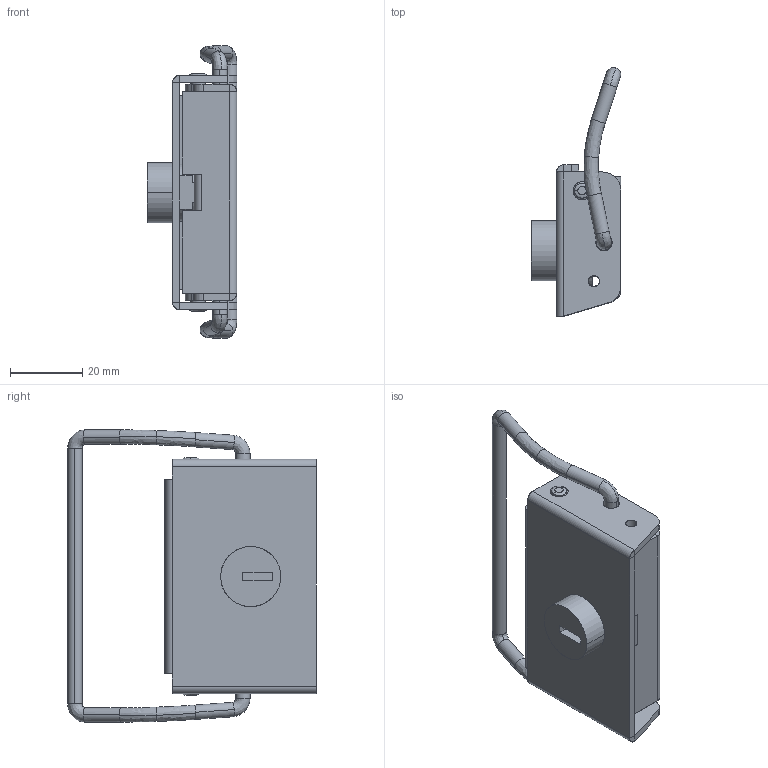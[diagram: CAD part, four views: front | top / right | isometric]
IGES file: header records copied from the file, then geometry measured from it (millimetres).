
Start section: SolidWorks IGES file using analytic representation for surfaces
Global section: file name: C:\Users\cbrechard\Desktop\GE 2091.IGS; native system: SolidWorks 2017; preprocessor: SolidWorks 2017; author: cbrechard; date: 190927.093732; units: millimetre
Bounding box: 24.85 x 69 x 81.12 mm (x, y, z)
Surface area: 20126.8 mm2 (no closed solid volume)
Topology: 0 solids, 0 shells, 228 faces, 2776 edges, 2776 vertices
Faces by surface type: bspline 145, revolution 83
